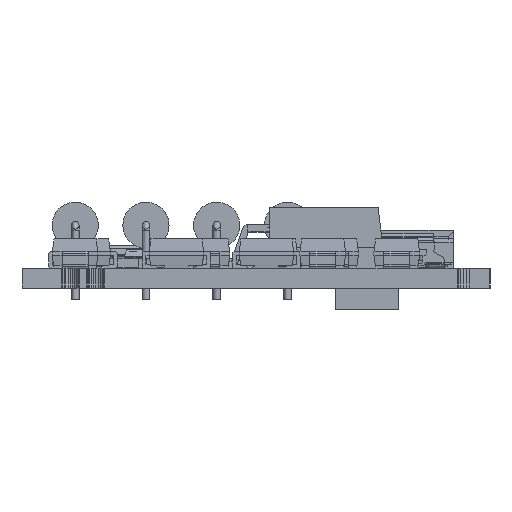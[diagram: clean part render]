
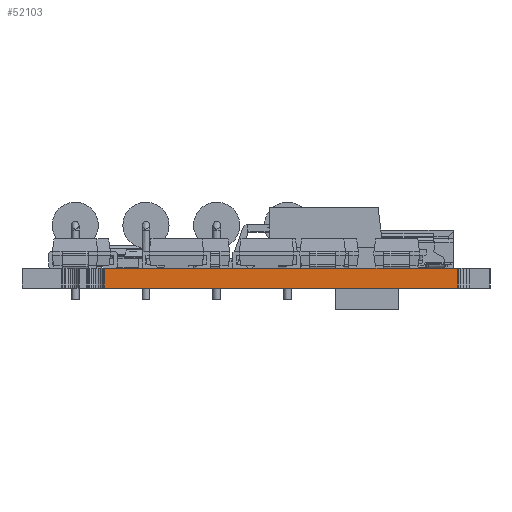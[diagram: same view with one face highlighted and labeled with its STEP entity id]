
A CAD part, left-side view. The second image highlights one B-rep face of the part: STEP entity #52103.
In plain terms, the highlighted planar face has unit normal (-1, 0, 0).
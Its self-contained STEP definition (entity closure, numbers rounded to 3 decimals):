
#8158=VERTEX_POINT('',#72089);
#8159=VERTEX_POINT('',#72091);
#8160=VERTEX_POINT('',#72095);
#8161=VERTEX_POINT('',#72097);
#13056=VECTOR('',#59408,1.);
#13058=VECTOR('',#59411,1.);
#13059=VECTOR('',#59412,1.);
#13060=VECTOR('',#59413,1.);
#19257=LINE('',#72090,#13056);
#19259=LINE('',#72094,#13058);
#19260=LINE('',#72096,#13059);
#19261=LINE('',#72098,#13060);
#25458=EDGE_CURVE('',#8158,#8159,#19257,.T.);
#25460=EDGE_CURVE('',#8158,#8160,#19259,.T.);
#25461=EDGE_CURVE('',#8160,#8161,#19260,.T.);
#25462=EDGE_CURVE('',#8159,#8161,#19261,.T.);
#32843=ORIENTED_EDGE('',*,*,#25460,.T.);
#32844=ORIENTED_EDGE('',*,*,#25461,.T.);
#32845=ORIENTED_EDGE('',*,*,#25462,.F.);
#32846=ORIENTED_EDGE('',*,*,#25458,.F.);
#46661=EDGE_LOOP('',(#32843,#32844,#32845,#32846));
#49382=FACE_BOUND('',#46661,.T.);
#52103=ADVANCED_FACE('',(#49382),#87682,.F.);
#54723=AXIS2_PLACEMENT_3D('',#72093,#59410,$);
#59408=DIRECTION('',(0.,0.,1.));
#59410=DIRECTION('',(1.,0.,0.));
#59411=DIRECTION('',(0.,-1.,0.));
#59412=DIRECTION('',(0.,0.,1.));
#59413=DIRECTION('',(0.,-1.,0.));
#72089=CARTESIAN_POINT('',(0.,30.454,0.));
#72090=CARTESIAN_POINT('',(0.,30.454,0.));
#72091=CARTESIAN_POINT('',(0.,30.454,1.57));
#72093=CARTESIAN_POINT('',(0.,30.454,0.));
#72094=CARTESIAN_POINT('',(0.,30.454,0.));
#72095=CARTESIAN_POINT('',(0.,2.591,0.));
#72096=CARTESIAN_POINT('',(0.,2.591,0.));
#72097=CARTESIAN_POINT('',(0.,2.591,1.57));
#72098=CARTESIAN_POINT('',(0.,30.454,1.57));
#87682=PLANE('',#54723);
